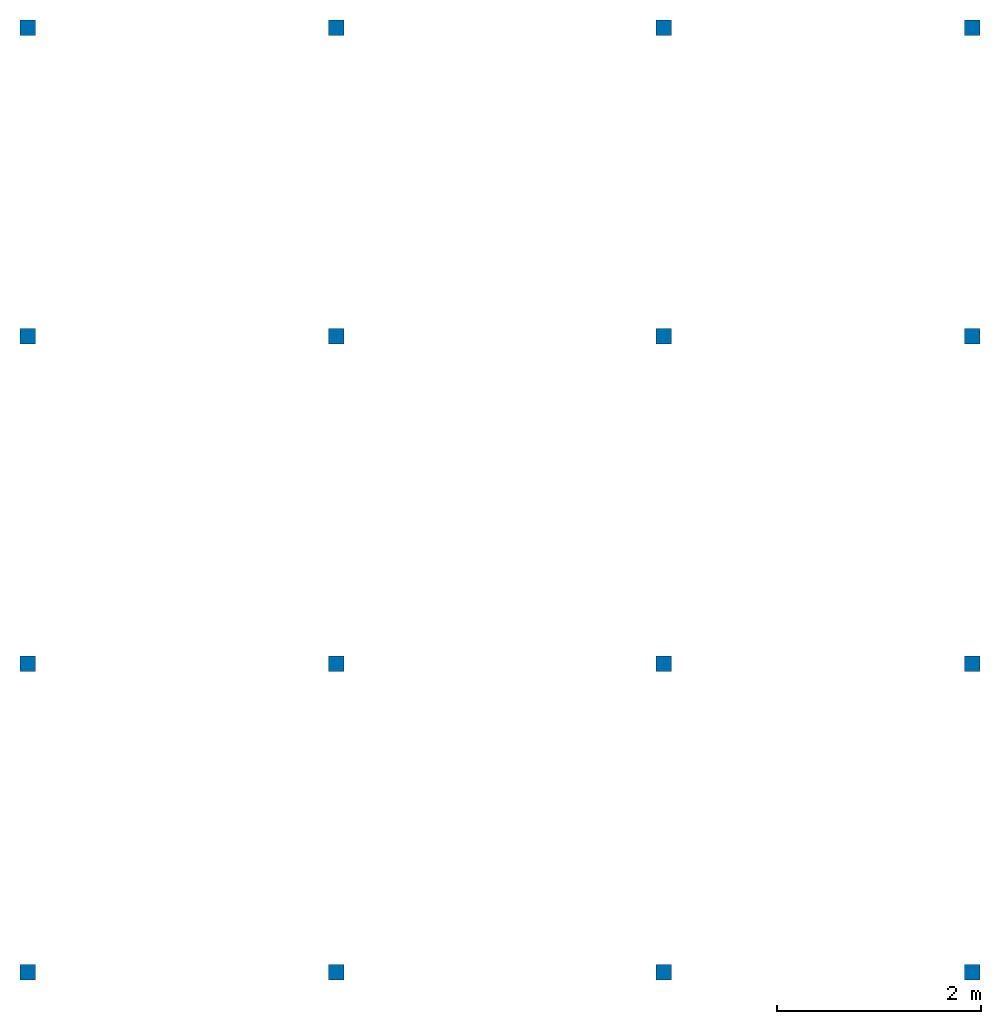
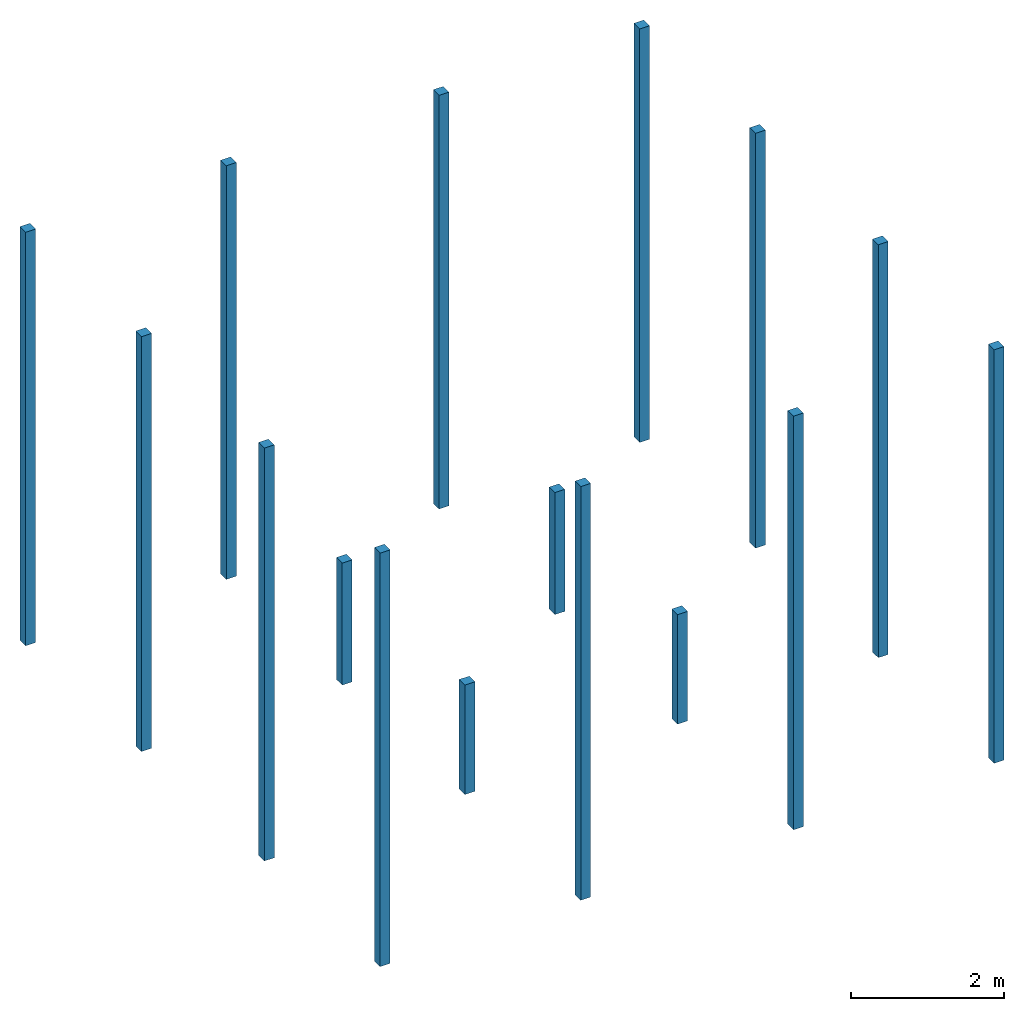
# One storey: 16 columns.
"""IFC2X3 building model written with IfcOpenShell, lengths in centimetres."""

from ifc_helpers import new_model, entity, si_unit, converted_unit, derived_unit, direction, frame, origin, origin_2d_with_axis, place, context, subcontext, project, spatial, rectangle, extrude, source, transform, mapped, material, type_object, type_shapes, element, save


model = new_model("IFC2X3")

# Units and contexts
model_context = context("Model", 3, precision=0.001, world=origin(), true_north=direction((6.123233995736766e-17, 1.0)))
body_context = subcontext(model_context, "Body", "Model", "MODEL_VIEW")
ifc_project = project(units=[si_unit("LENGTHUNIT", "METRE", prefix="CENTI"), si_unit("AREAUNIT", "SQUARE_METRE"), si_unit("VOLUMEUNIT", "CUBIC_METRE"), converted_unit("PLANEANGLEUNIT", "DEGREE", entity("IfcPlaneAngleMeasure", 0.017453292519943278), si_unit("PLANEANGLEUNIT", "RADIAN"), dimensions=[0, 0, 0, 0, 0, 0, 0]), si_unit("POWERUNIT", "WATT"), derived_unit("USERDEFINED", [(si_unit("MASSUNIT", "GRAM", prefix="KILO"), 1), (si_unit("TIMEUNIT", "SECOND"), -3)]), si_unit("FORCEUNIT", "NEWTON", prefix="KILO"), derived_unit("THERMALTRANSMITTANCEUNIT", [(si_unit("MASSUNIT", "GRAM", prefix="KILO"), 1), (si_unit("TIMEUNIT", "SECOND"), -3), (si_unit("THERMODYNAMICTEMPERATUREUNIT", "KELVIN"), -1)]), derived_unit("USERDEFINED", [(si_unit("MASSUNIT", "GRAM", prefix="KILO"), 1), (si_unit("THERMODYNAMICTEMPERATUREUNIT", "KELVIN"), -1), (si_unit("TIMEUNIT", "SECOND"), -2)]), derived_unit("THERMALRESISTANCEUNIT", [(si_unit("MASSUNIT", "GRAM", prefix="KILO"), -1), (si_unit("TIMEUNIT", "SECOND"), 3), (si_unit("THERMODYNAMICTEMPERATUREUNIT", "KELVIN"), 1)]), derived_unit("USERDEFINED", [(si_unit("MASSUNIT", "GRAM", prefix="KILO"), -1), (si_unit("TIMEUNIT", "SECOND"), 3), (si_unit("LENGTHUNIT", "METRE"), -2), (si_unit("LUMINOUSFLUXUNIT", "LUMEN"), 1)]), si_unit("LUMINOUSFLUXUNIT", "LUMEN")], contexts=[model_context])

# Site, building, storey
site_placement = place(None, origin())
site = spatial("IfcSite", under=ifc_project, at=site_placement, Name="Default", CompositionType="ELEMENT")
building_placement = place(site_placement, origin())
building = spatial("IfcBuilding", under=site, at=building_placement, Name="Workshop Hbaitáculo - Refugio Tierra del Fuego", CompositionType="ELEMENT")
storey_placement = place(building_placement, frame((0.0, 0.0, -180.0)))
storey = spatial("IfcBuildingStorey", under=building, at=storey_placement, Name="NOG_BASE PILARES", CompositionType="ELEMENT", Elevation=-180.0)

# Columns
ifc_material = material(Name="Madera Oscura")
column_type_1 = type_object("IfcColumnType", Name="Pilar:150x150 mm", PredefinedType="COLUMN", material=ifc_material)
shared_shape_1 = source(origin(), body_context, "Body", "SweptSolid", [
    extrude(rectangle(XDim=14.999999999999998, YDim=14.999999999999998, at=origin_2d_with_axis()), frame((0.0, 0.0, -110.0), z_axis=(0.0, 0.0, 1.0), x_axis=(-1.0, 0.0, 0.0)), (0.0, 0.0, 1.0), 660.9999999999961),
])
type_shapes(column_type_1, [shared_shape_1])
for number, where, name in (
    (1, (-14.0, 323.0, 180.0), "Pilar:150x150 mm"),
    (2, (914.0000000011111, 323.0, 180.0), "Pilar:150x150 mm"),
    (3, (610.750000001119, 323.0, 180.0), "Pilar:150x150 mm"),
    (4, (289.24999999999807, 323.0, 180.0), "Pilar:150x150 mm"),
):
    element("IfcColumn", number, at=place(storey_placement, frame(where)), inside=storey, type_object=column_type_1, material=ifc_material, Name=name, ObjectType="Pilar:150x150 mm", context=body_context, shape_type="MappedRepresentation", body=[
        mapped(shared_shape_1, transform((0.0, 0.0, 0.0), scale=1.0)),
    ])
column_type_2 = type_object("IfcColumnType", Name="Pilar:150x150 mm", PredefinedType="COLUMN", material=ifc_material)
shared_shape_2 = source(origin(), body_context, "Body", "SweptSolid", [
    extrude(rectangle(XDim=14.999999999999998, YDim=14.999999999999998, at=origin_2d_with_axis()), frame((0.0, 0.0, -60.0), z_axis=(0.0, 0.0, 1.0), x_axis=(0.0, 1.0, 0.0)), (0.0, 0.0, 1.0), 660.9999999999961),
])
type_shapes(column_type_2, [shared_shape_2])
for number, where, name in (
    (5, (-14.0, -605.0, 180.0), "Pilar:150x150 mm"),
    (6, (914.0000000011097, -605.0, 180.0), "Pilar:150x150 mm"),
    (7, (610.7500000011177, -605.0, 180.0), "Pilar:150x150 mm"),
    (8, (289.24999999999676, -605.0, 180.0), "Pilar:150x150 mm"),
):
    element("IfcColumn", number, at=place(storey_placement, frame(where)), inside=storey, type_object=column_type_2, material=ifc_material, Name=name, ObjectType="Pilar:150x150 mm", context=body_context, shape_type="MappedRepresentation", body=[
        mapped(shared_shape_2, transform((0.0, 0.0, 0.0), scale=1.0)),
    ])
column_type_3 = type_object("IfcColumnType", Name="Pilar:150x150 mm", PredefinedType="COLUMN", material=ifc_material)
shared_shape_3 = source(origin(), body_context, "Body", "SweptSolid", [
    extrude(rectangle(XDim=14.999999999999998, YDim=14.999999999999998, at=origin_2d_with_axis()), frame((0.0, 0.0, -95.0), z_axis=(0.0, 0.0, 1.0), x_axis=(-1.0, 0.0, 0.0)), (0.0, 0.0, 1.0), 662.9999999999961),
])
type_shapes(column_type_3, [shared_shape_3])
column_1_placement = place(storey_placement, frame((-14.0, 19.7499999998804, 180.0)))
element("IfcColumn", 9, at=column_1_placement, inside=storey, type_object=column_type_3, material=ifc_material, Name="Pilar:150x150 mm", ObjectType="Pilar:150x150 mm", context=body_context, shape_type="MappedRepresentation", body=[
    mapped(shared_shape_3, transform((0.0, 0.0, 0.0), scale=1.0)),
])
column_type_4 = type_object("IfcColumnType", Name="Pilar:150x150 mm", PredefinedType="COLUMN", material=ifc_material)
shared_shape_4 = source(origin(), body_context, "Body", "SweptSolid", [
    extrude(rectangle(XDim=14.999999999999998, YDim=14.999999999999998, at=origin_2d_with_axis()), frame((0.0, 0.0, -95.0), z_axis=(0.0, 0.0, 1.0), x_axis=(0.0, 1.0, 0.0)), (0.0, 0.0, 1.0), 662.9999999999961),
])
type_shapes(column_type_4, [shared_shape_4])
column_2_placement = place(storey_placement, frame((914.0000000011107, 19.749999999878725, 180.0), z_axis=(0.0, 0.0, 1.0), x_axis=(-1.0, 0.0, 0.0)))
element("IfcColumn", 10, at=column_2_placement, inside=storey, type_object=column_type_4, material=ifc_material, Name="Pilar:150x150 mm", ObjectType="Pilar:150x150 mm", context=body_context, shape_type="MappedRepresentation", body=[
    mapped(shared_shape_4, transform((0.0, 0.0, 0.0), scale=1.0)),
])
column_type_5 = type_object("IfcColumnType", Name="Pilar:150x150 mm", PredefinedType="COLUMN", material=ifc_material)
shared_shape_5 = source(origin(), body_context, "Body", "SweptSolid", [
    extrude(rectangle(XDim=14.999999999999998, YDim=14.999999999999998, at=origin_2d_with_axis()), frame((0.0, 0.0, -75.0), z_axis=(0.0, 0.0, 1.0), x_axis=(0.0, 1.0, 0.0)), (0.0, 0.0, 1.0), 659.9999999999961),
])
type_shapes(column_type_5, [shared_shape_5])
column_3_placement = place(storey_placement, frame((-14.0, -301.75000000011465, 180.0)))
element("IfcColumn", 11, at=column_3_placement, inside=storey, type_object=column_type_5, material=ifc_material, Name="Pilar:150x150 mm", ObjectType="Pilar:150x150 mm", context=body_context, shape_type="MappedRepresentation", body=[
    mapped(shared_shape_5, transform((0.0, 0.0, 0.0), scale=1.0)),
])
column_type_6 = type_object("IfcColumnType", Name="Pilar:150x150 mm", PredefinedType="COLUMN", material=ifc_material)
shared_shape_6 = source(origin(), body_context, "Body", "SweptSolid", [
    extrude(rectangle(XDim=14.999999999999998, YDim=14.999999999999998, at=origin_2d_with_axis()), frame((0.0, 0.0, -75.0), z_axis=(0.0, 0.0, 1.0), x_axis=(-1.0, 0.0, 0.0)), (0.0, 0.0, 1.0), 659.9999999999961),
])
type_shapes(column_type_6, [shared_shape_6])
column_4_placement = place(storey_placement, frame((914.0000000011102, -301.75000000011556, 180.0), z_axis=(0.0, 0.0, 1.0), x_axis=(-1.0, 0.0, 0.0)))
element("IfcColumn", 12, at=column_4_placement, inside=storey, type_object=column_type_6, material=ifc_material, Name="Pilar:150x150 mm", ObjectType="Pilar:150x150 mm", context=body_context, shape_type="MappedRepresentation", body=[
    mapped(shared_shape_6, transform((0.0, 0.0, 0.0), scale=1.0)),
])
column_type_7 = type_object("IfcColumnType", Name="Pilar:150x150 mm", PredefinedType="COLUMN", material=ifc_material)
shared_shape_7 = source(origin(), body_context, "Body", "SweptSolid", [
    extrude(rectangle(XDim=14.999999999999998, YDim=14.999999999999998, at=origin_2d_with_axis()), frame((0.0, 0.0, -95.0), z_axis=(0.0, 0.0, 1.0), x_axis=(0.0, 1.0, 0.0)), (0.0, 0.0, 1.0), 195.0),
])
type_shapes(column_type_7, [shared_shape_7])
column_5_placement = place(storey_placement, frame((610.750000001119, 19.7499999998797, 180.0), z_axis=(0.0, 0.0, 1.0), x_axis=(-1.0, 0.0, 0.0)))
element("IfcColumn", 13, at=column_5_placement, inside=storey, type_object=column_type_7, material=ifc_material, Name="Pilar:150x150 mm", ObjectType="Pilar:150x150 mm", context=body_context, shape_type="MappedRepresentation", body=[
    mapped(shared_shape_7, transform((0.0, 0.0, 0.0), scale=1.0)),
])
column_type_8 = type_object("IfcColumnType", Name="Pilar:150x150 mm", PredefinedType="COLUMN", material=ifc_material)
shared_shape_8 = source(origin(), body_context, "Body", "SweptSolid", [
    extrude(rectangle(XDim=14.999999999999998, YDim=14.999999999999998, at=origin_2d_with_axis()), frame((0.0, 0.0, -95.0), z_axis=(0.0, 0.0, 1.0), x_axis=(-1.0, 0.0, 0.0)), (0.0, 0.0, 1.0), 195.0),
])
type_shapes(column_type_8, [shared_shape_8])
column_6_placement = place(storey_placement, frame((289.24999999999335, 19.74999999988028, 180.0)))
element("IfcColumn", 14, at=column_6_placement, inside=storey, type_object=column_type_8, material=ifc_material, Name="Pilar:150x150 mm", ObjectType="Pilar:150x150 mm", context=body_context, shape_type="MappedRepresentation", body=[
    mapped(shared_shape_8, transform((0.0, 0.0, 0.0), scale=1.0)),
])
column_type_9 = type_object("IfcColumnType", Name="Pilar:150x150 mm", PredefinedType="COLUMN", material=ifc_material)
shared_shape_9 = source(origin(), body_context, "Body", "SweptSolid", [
    extrude(rectangle(XDim=14.999999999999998, YDim=14.999999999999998, at=origin_2d_with_axis()), frame((0.0, 0.0, -75.0), z_axis=(0.0, 0.0, 1.0), x_axis=(-1.0, 0.0, 0.0)), (0.0, 0.0, 1.0), 175.0),
])
type_shapes(column_type_9, [shared_shape_9])
column_7_placement = place(storey_placement, frame((610.7500000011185, -301.75000000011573, 180.0), z_axis=(0.0, 0.0, 1.0), x_axis=(-1.0, 0.0, 0.0)))
element("IfcColumn", 15, at=column_7_placement, inside=storey, type_object=column_type_9, material=ifc_material, Name="Pilar:150x150 mm", ObjectType="Pilar:150x150 mm", context=body_context, shape_type="MappedRepresentation", body=[
    mapped(shared_shape_9, transform((0.0, 0.0, 0.0), scale=1.0)),
])
column_type_10 = type_object("IfcColumnType", Name="Pilar:150x150 mm", PredefinedType="COLUMN", material=ifc_material)
shared_shape_10 = source(origin(), body_context, "Body", "SweptSolid", [
    extrude(rectangle(XDim=14.999999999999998, YDim=14.999999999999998, at=origin_2d_with_axis()), frame((0.0, 0.0, -75.0), z_axis=(0.0, 0.0, 1.0), x_axis=(0.0, 1.0, 0.0)), (0.0, 0.0, 1.0), 175.0),
])
type_shapes(column_type_10, [shared_shape_10])
column_8_placement = place(storey_placement, frame((289.24999999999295, -301.75000000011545, 180.0)))
element("IfcColumn", 16, at=column_8_placement, inside=storey, type_object=column_type_10, material=ifc_material, Name="Pilar:150x150 mm", ObjectType="Pilar:150x150 mm", context=body_context, shape_type="MappedRepresentation", body=[
    mapped(shared_shape_10, transform((0.0, 0.0, 0.0), scale=1.0)),
])

save(model, "model.ifc")
